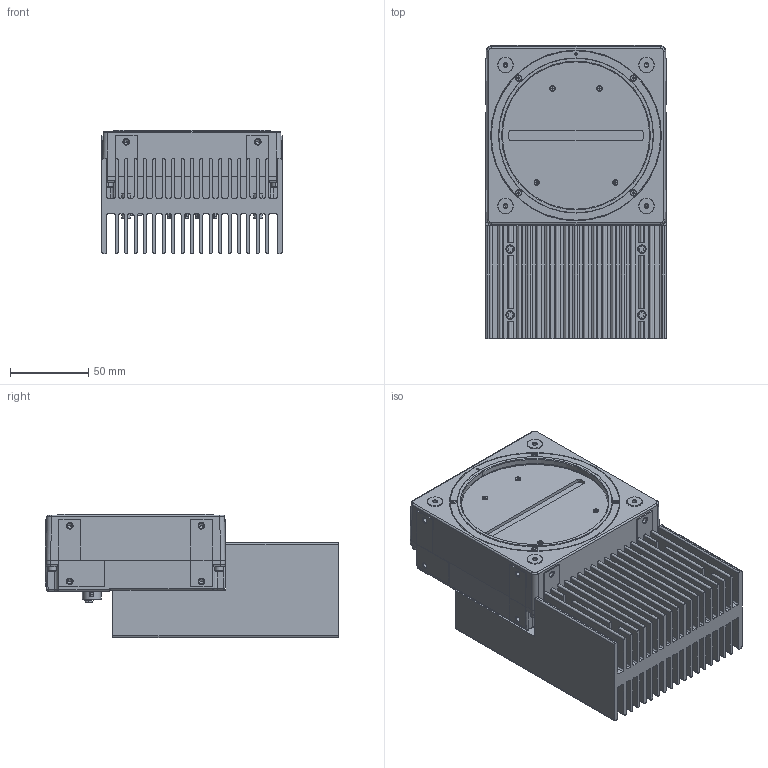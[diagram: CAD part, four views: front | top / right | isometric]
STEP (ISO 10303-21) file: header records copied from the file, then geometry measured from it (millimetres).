
FILE_DESCRIPTION((''),'2;1');
FILE_NAME('SW-16000M-CXPA_MOCK_ASSY_ASM','2024-11-13T19:34:22',('aso'),(''),'CREO PARAMETRIC BY PTC INC, 2024133','CREO PARAMETRIC BY PTC INC, 2024133','');
FILE_SCHEMA(('AUTOMOTIVE_DESIGN { 1 0 10303 214 1 1 1 1 }'));
Products named in the file (1): SW-16000M-CXPA_MOCK_ASSY_ASM
Bounding box: 115 x 187 x 78.5 mm (x, y, z)
Volume: 922001.6 mm3; surface area: 283962.7 mm2
Topology: 2 solids, 28 shells, 1910 faces, 5328 edges, 3468 vertices
Faces by surface type: plane 849, cylinder 692, cone 219, bspline 69, torus 48, sphere 33
Entity records: 82984 total; most frequent: CARTESIAN_POINT 18862, ORIENTED_EDGE 10400, DIRECTION 9886, EDGE_CURVE 5240, AXIS2_PLACEMENT_3D 3591, VERTEX_POINT 3468, PRESENTATION_STYLE_ASSIGNMENT 2974, STYLED_ITEM 2838
